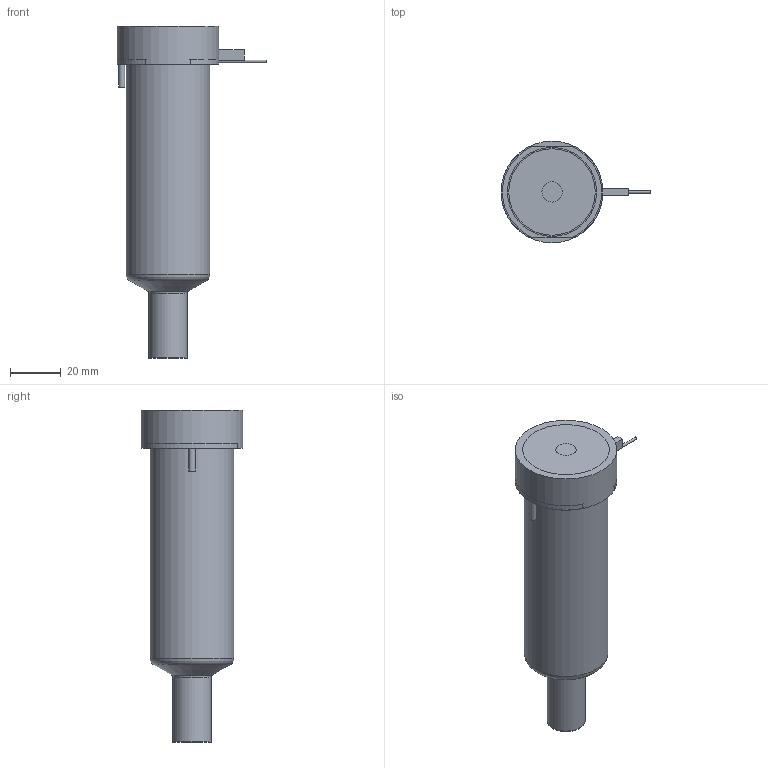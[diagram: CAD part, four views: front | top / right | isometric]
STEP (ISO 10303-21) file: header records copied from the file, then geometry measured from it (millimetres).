
FILE_DESCRIPTION(/* description */ (''),/* implementation_level */ '2;1');
FILE_NAME(/* name */ 'BXYCN19095N3U_200C_a',/* time_stamp */ '2016-02-22T14:58:58+13:00',/* author */ (''),/* organization */ (''),/* preprocessor_version */ 'ST-DEVELOPER v9',/* originating_system */ 'UGS - NX 4.0',/* authorisation */ '');
FILE_SCHEMA (('CONFIG_CONTROL_DESIGN'));
Length unit declared in the file: millimetre
Products named in the file (1): MattBE97x03d
Bounding box: 58.85 x 40 x 130.52 mm (x, y, z)
Volume: 172299.2 mm3; surface area: 29160.2 mm2
Topology: 2 solids, 2 shells, 66 faces, 148 edges, 96 vertices
Faces by surface type: plane 31, cylinder 21, torus 7, cone 5, bspline 1, sphere 1
Full cylindrical faces by diameter (mm): 1 x2, 2 x1, 2.5 x1, 7 x1, 8 x1, 14.61 x1, 14.995 x2, 18.3 x1, 28.6 x1, 33 x1, 40 x1
Entity records: 1929 total; most frequent: CARTESIAN_POINT 483, DIRECTION 297, ORIENTED_EDGE 232, AXIS2_PLACEMENT_3D 127, EDGE_CURVE 116, EDGE_LOOP 102, VERTEX_POINT 88, ADVANCED_FACE 66
